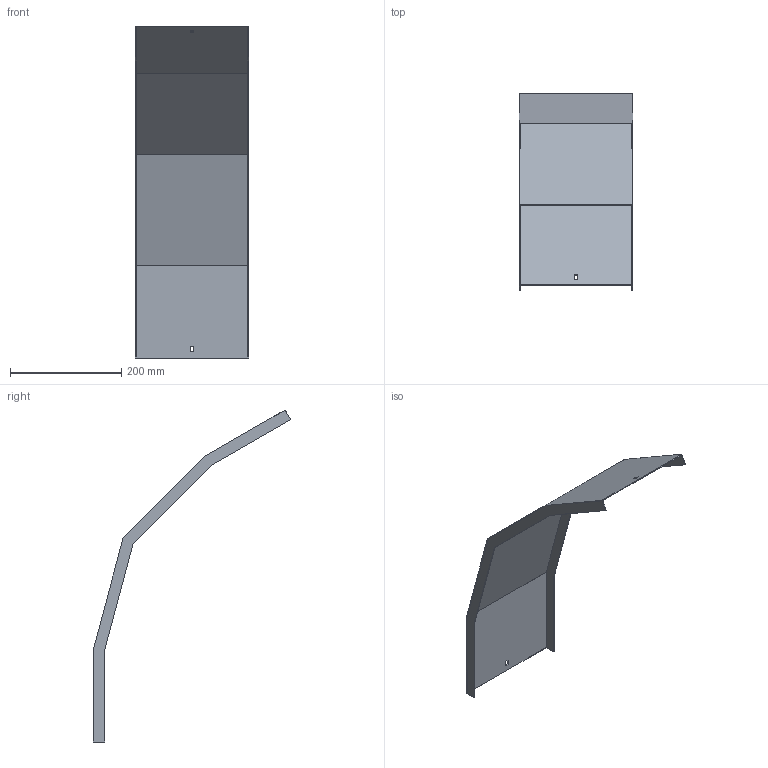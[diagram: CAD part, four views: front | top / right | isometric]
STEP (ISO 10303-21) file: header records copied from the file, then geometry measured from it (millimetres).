
FILE_DESCRIPTION (( 'STEP AP214' ), '1' );
FILE_NAME ('A2_41N3J200.step', '2025-02-21T10:40:29', ( '' ), ( '' ), 'SwSTEP 2.0', 'SolidWorks 2023', '' );
FILE_SCHEMA (( 'AUTOMOTIVE_DESIGN' ));
Length unit declared in the file: millimetre
Products named in the file (1): A2_41N3J200
Bounding box: 203 x 354.25 x 596.25 mm (x, y, z)
Volume: 267958 mm3; surface area: 360270.7 mm2
Topology: 1 solids, 1 shells, 30 faces, 84 edges, 56 vertices
Faces by surface type: plane 30
Entity records: 979 total; most frequent: CARTESIAN_POINT 171, ORIENTED_EDGE 168, DIRECTION 146, VECTOR 84, EDGE_CURVE 84, LINE 84, VERTEX_POINT 56, EDGE_LOOP 34
